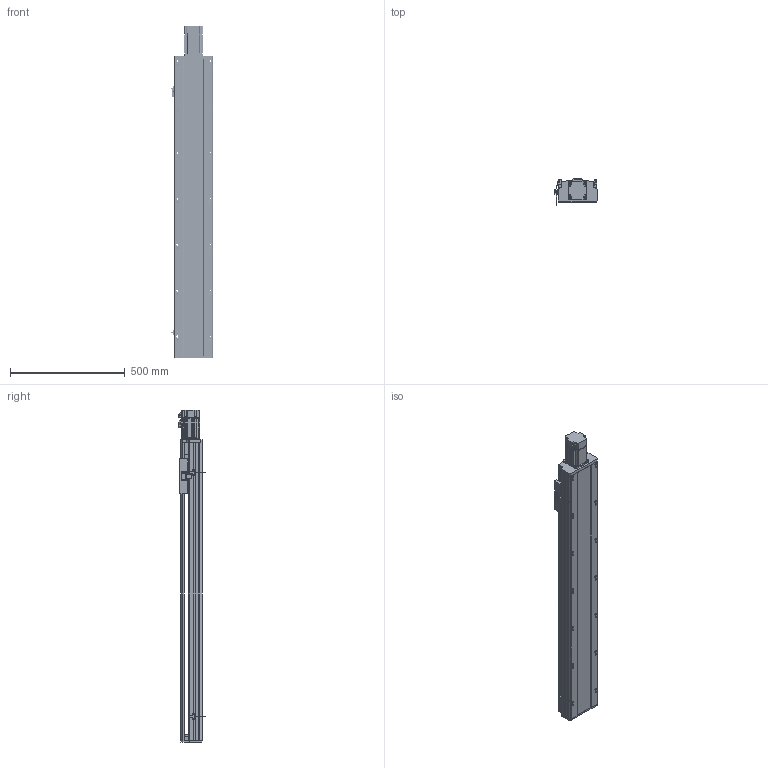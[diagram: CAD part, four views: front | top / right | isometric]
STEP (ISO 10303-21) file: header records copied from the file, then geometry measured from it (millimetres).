
FILE_DESCRIPTION (( 'STEP AP214' ), '1' );
FILE_NAME ('CTH170-1050.STEP', '2019-11-25T09:03:40', ( '微软用户' ), ( '微软中国' ), 'SwSTEP 2.0', 'SolidWorks 2017', '' );
FILE_SCHEMA (( 'AUTOMOTIVE_DESIGN' ));
Length unit declared in the file: millimetre
Products named in the file (32): EG20_RAIL; MISUMI_B7002-DB_盄俶絳砃粣; 170賑怢; BEARING_MISUMI_B7002-DB_盄俶絳砃粣; 170裔啣^CTH170-L10-200; 錨璃8^蚾饜极3_CTH170-L10-200; 錨璃2; 复件 轴承座^装配体3_CTH170-L10-200; 佪話盓傅釱^CTH170-L10-200; CTH170-1050; M5-L16囀鞠褒蹟佪; 遣喳蝶15x12x8-BR L; 支撑座^丝杠支撑座_CTH170-L10-200; B6002Z; _C-BSST2005_n; SFS2005-411-SZC; SFH2010佪裝; M3-L8囀鞠褒蹟佪; 80EMA-016A; EE-SX672峚倰換覜ん; 170萇儂啣; CT17耀郪-覜茼んえ; 170傷啣; M6-L20囀鞠褒蹟佪; EGH20CA; 蚾饜极3^CTH170-L10-200; M5-L20囀鞠褒蹟佪-BR L; M4-L10囀鞠褒蹟佪-BR L; M5-L10囀鞠褒蹟佪; 坶踡蹟簽M15x1; EGH20CA_BLOCK; 潔路遠COL15-A
Assembly tree (79 placements, depth 4):
  CTH170-1050
    錨璃2
    170裔啣^CTH170-L10-200
    170賑怢
    EGH20CA  x2
      EG20_RAIL
      EGH20CA_BLOCK
      M5-L10囀鞠褒蹟佪
      M5-L20囀鞠褒蹟佪-BR L
    170傷啣
    170萇儂啣
    80EMA-016A
    SFS2005-411-SZC
      SFH2010佪裝
    _C-BSST2005_n
    佪話盓傅釱^CTH170-L10-200
      B6002Z
      支撑座^丝杠支撑座_CTH170-L10-200
      遣喳蝶15x12x8-BR L  x2
      M5-L16囀鞠褒蹟佪  x2
    蚾饜极3^CTH170-L10-200
      复件 轴承座^装配体3_CTH170-L10-200
      錨璃8^蚾饜极3_CTH170-L10-200
      MISUMI_B7002-DB_盄俶絳砃粣
        BEARING_MISUMI_B7002-DB_盄俶絳砃粣  x2
      潔路遠COL15-A  x2
      坶踡蹟簽M15x1
      M5-L16囀鞠褒蹟佪  x6
      M4-L10囀鞠褒蹟佪-BR L  x4
    遣喳蝶15x12x8-BR L  x2
    M6-L20囀鞠褒蹟佪  x4
    M4-L10囀鞠褒蹟佪-BR L  x10
    M5-L16囀鞠褒蹟佪  x4
    CT17耀郪-覜茼んえ
    EE-SX672峚倰換覜ん  x2
    M3-L8囀鞠褒蹟佪  x4
Bounding box: 183.7 x 117.95 x 1446 mm (x, y, z)
Volume: 8078301 mm3; surface area: 2529640.1 mm2
Topology: 91 solids, 92 shells, 5805 faces, 15287 edges, 9736 vertices
Faces by surface type: plane 3146, cylinder 1616, cone 661, bspline 342, torus 40
Entity records: 105464 total; most frequent: CARTESIAN_POINT 22343, ORIENTED_EDGE 15172, DIRECTION 14845, EDGE_CURVE 7586, AXIS2_PLACEMENT_3D 5216, VERTEX_POINT 4932, LINE 4413, VECTOR 4413
